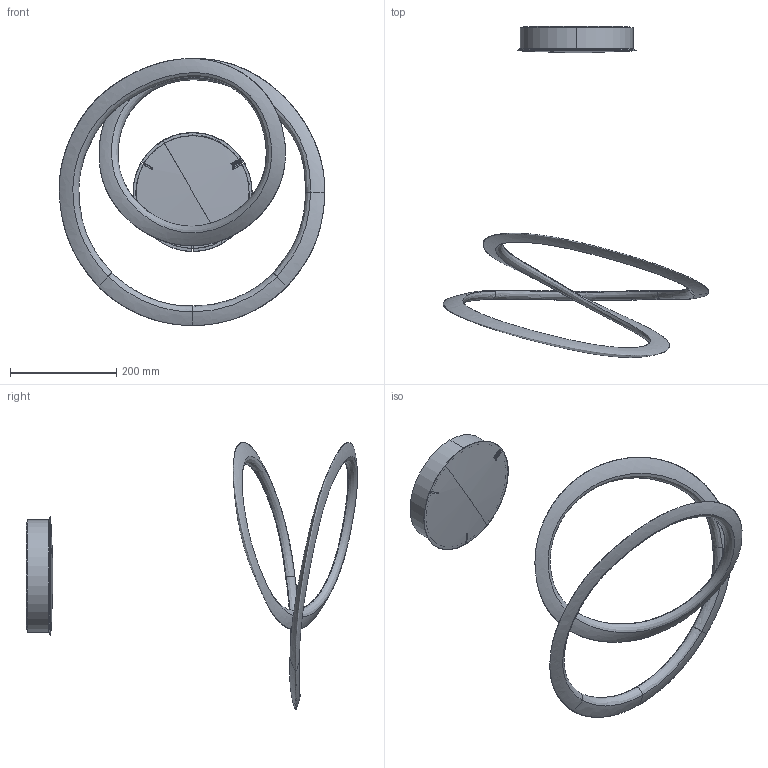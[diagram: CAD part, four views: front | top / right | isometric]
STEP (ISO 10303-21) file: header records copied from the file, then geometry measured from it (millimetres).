
FILE_DESCRIPTION (( 'STEP AP203' ), '1' );
FILE_NAME ('kepler petit.STEP', '2020-11-13T15:49:34', ( 'User' ), ( 'Hewlett-Packard Company' ), 'SwSTEP 2.0', 'SolidWorks 2016', '' );
FILE_SCHEMA (( 'CONFIG_CONTROL_DESIGN' ));
Length unit declared in the file: millimetre
Products named in the file (4): kepler petit; base_ROSONE KEPLER & ELP ETL; coperchio_052COM702500_3 TAGLI
Assembly tree (3 placements, depth 2):
  kepler petit
    base_ROSONE KEPLER & ELP ETL
    coperchio_052COM702500_3 TAGLI
    kepler petit
Bounding box: 499.02 x 622.64 x 502.14 mm (x, y, z)
Volume: 2625283.3 mm3; surface area: 398784.1 mm2
Topology: 3 solids, 3 shells, 110 faces, 311 edges, 211 vertices
Faces by surface type: plane 47, bspline 26, cylinder 16, sphere 9, cone 8, torus 4
Entity records: 6426 total; most frequent: CARTESIAN_POINT 3308, ORIENTED_EDGE 622, DIRECTION 517, EDGE_CURVE 311, AXIS2_PLACEMENT_3D 226, VERTEX_POINT 211, CIRCLE 136, EDGE_LOOP 116
